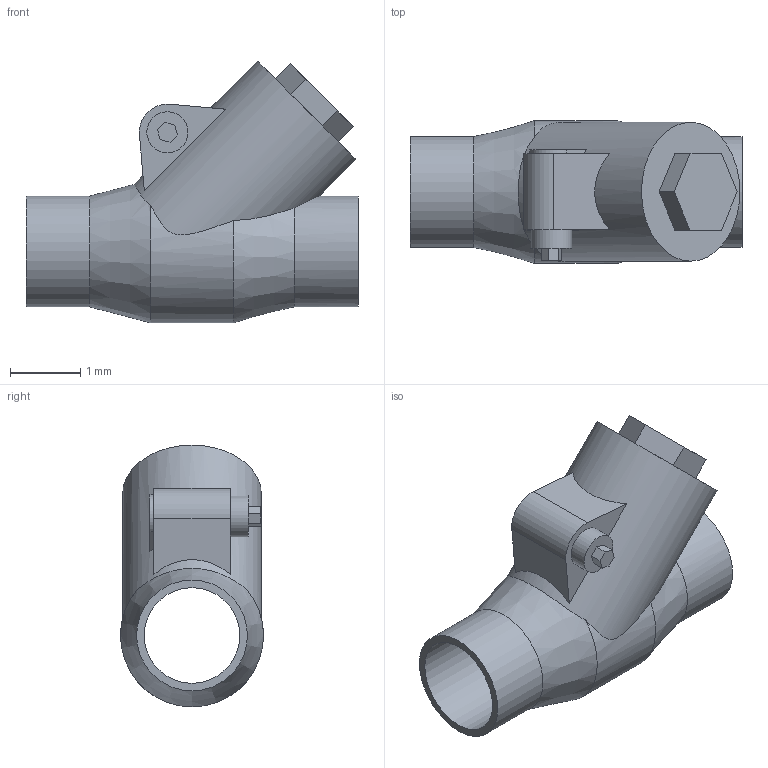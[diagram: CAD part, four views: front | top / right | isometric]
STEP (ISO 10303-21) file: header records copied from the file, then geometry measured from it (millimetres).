
FILE_DESCRIPTION(('Open CASCADE Model'),'2;1');
FILE_NAME('Open CASCADE Shape Model','2022-08-16T08:04:43',('Author'),( 'Open CASCADE'),'Open CASCADE STEP processor 7.3','Open CASCADE 7.3' ,'Unknown');
FILE_SCHEMA(('AUTOMOTIVE_DESIGN { 1 0 10303 214 1 1 1 1 }'));
Length unit declared in the file: millimetre
Products named in the file (1): Open CASCADE STEP translator 7.3 1
Bounding box: 4.72 x 2.03 x 3.72 mm (x, y, z)
Volume: 10.3 mm3; surface area: 63.8 mm2
Topology: 1 solids, 1 shells, 39 faces, 93 edges, 62 vertices
Faces by surface type: plane 27, cylinder 10, cone 2
Full cylindrical faces by diameter (mm): 0.584 x1, 1.36 x2, 1.496 x1, 1.575 x2, 1.975 x1
Entity records: 3063 total; most frequent: CARTESIAN_POINT 1192, DIRECTION 338, LINE 200, VECTOR 200, ORIENTED_EDGE 186, PCURVE 186, DEFINITIONAL_REPRESENTATION 186, EDGE_CURVE 93
